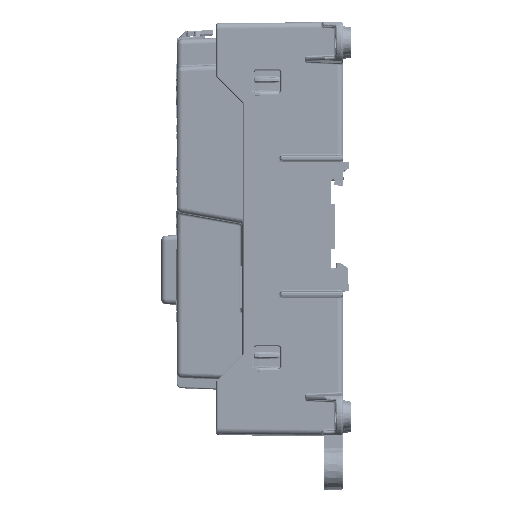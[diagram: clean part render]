
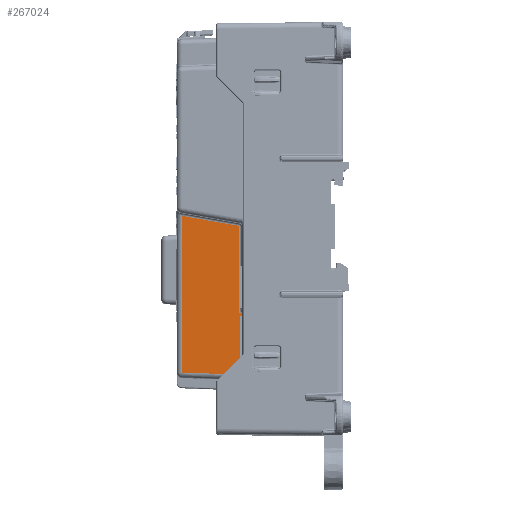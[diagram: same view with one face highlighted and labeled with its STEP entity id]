
A CAD part, top view. The second image highlights one B-rep face of the part: STEP entity #267024.
In plain terms, the highlighted planar face has unit normal (-0.035, 0, 0.999).
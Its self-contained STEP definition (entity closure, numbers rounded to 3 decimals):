
#21555=FACE_OUTER_BOUND('',#37088,.T.);
#37088=EDGE_LOOP('',(#200629,#200630,#200631,#200632,#200633,#200634,#200635,
#200636));
#54671=LINE('',#452874,#80027);
#54680=LINE('',#452913,#80036);
#54683=LINE('',#452948,#80039);
#54686=LINE('',#452984,#80042);
#55919=LINE('',#461238,#81275);
#56609=LINE('',#469348,#81965);
#56619=LINE('',#469616,#81975);
#56620=LINE('',#469617,#81976);
#80027=VECTOR('',#319770,1000.);
#80036=VECTOR('',#319785,1000.);
#80039=VECTOR('',#319790,1000.);
#80042=VECTOR('',#319793,1000.);
#81275=VECTOR('',#322510,1000.);
#81965=VECTOR('',#324364,1000.);
#81975=VECTOR('',#324396,1000.);
#81976=VECTOR('',#324397,1000.);
#115072=VERTEX_POINT('',#450029);
#115329=VERTEX_POINT('',#452859);
#115337=VERTEX_POINT('',#452911);
#115338=VERTEX_POINT('',#452912);
#115341=VERTEX_POINT('',#452947);
#116920=VERTEX_POINT('',#461237);
#117679=VERTEX_POINT('',#469347);
#117692=VERTEX_POINT('',#469615);
#144897=EDGE_CURVE('',#115072,#115329,#54671,.T.);
#144907=EDGE_CURVE('',#115337,#115338,#54680,.T.);
#144912=EDGE_CURVE('',#115337,#115341,#54683,.T.);
#144916=EDGE_CURVE('',#115329,#115341,#54686,.T.);
#146909=EDGE_CURVE('',#115072,#116920,#55919,.T.);
#148152=EDGE_CURVE('',#115338,#117679,#56609,.T.);
#148174=EDGE_CURVE('',#117692,#117679,#56619,.T.);
#148175=EDGE_CURVE('',#116920,#117692,#56620,.T.);
#200629=ORIENTED_EDGE('',*,*,#148174,.F.);
#200630=ORIENTED_EDGE('',*,*,#148175,.F.);
#200631=ORIENTED_EDGE('',*,*,#146909,.F.);
#200632=ORIENTED_EDGE('',*,*,#144897,.T.);
#200633=ORIENTED_EDGE('',*,*,#144916,.T.);
#200634=ORIENTED_EDGE('',*,*,#144912,.F.);
#200635=ORIENTED_EDGE('',*,*,#144907,.T.);
#200636=ORIENTED_EDGE('',*,*,#148152,.T.);
#256451=PLANE('',#285738);
#267024=ADVANCED_FACE('',(#21555),#256451,.T.);
#285738=AXIS2_PLACEMENT_3D('',#469614,#324394,#324395);
#319770=DIRECTION('',(0.,1.,0.));
#319785=DIRECTION('',(-0.999,0.,-0.035));
#319790=DIRECTION('',(0.,-1.,0.));
#319793=DIRECTION('',(0.999,0.,0.035));
#322510=DIRECTION('',(-0.999,0.035,-0.035));
#324364=DIRECTION('',(0.,1.,0.));
#324394=DIRECTION('center_axis',(-0.035,0.,
0.999));
#324395=DIRECTION('ref_axis',(0.,-1.,0.));
#324396=DIRECTION('',(0.984,-0.174,0.034));
#324397=DIRECTION('',(0.,1.,0.));
#450029=CARTESIAN_POINT('',(-42.665,-56.717,214.143));
#452859=CARTESIAN_POINT('',(-42.665,-51.267,214.145));
#452874=CARTESIAN_POINT('',(-42.665,-31.568,214.145));
#452911=CARTESIAN_POINT('',(-41.7,-33.047,214.178));
#452912=CARTESIAN_POINT('',(-42.665,-33.047,214.145));
#452913=CARTESIAN_POINT('',(-41.7,-33.047,214.178));
#452947=CARTESIAN_POINT('',(-41.7,-51.267,214.178));
#452948=CARTESIAN_POINT('',(-41.7,0.749,214.178));
#452984=CARTESIAN_POINT('',(-41.7,-51.267,214.178));
#461237=CARTESIAN_POINT('',(-64.77,-55.946,213.373));
#461238=CARTESIAN_POINT('',(-53.607,-56.335,213.762));
#469347=CARTESIAN_POINT('',(-42.665,0.099,214.145));
#469348=CARTESIAN_POINT('',(-42.665,-31.568,214.145));
#469614=CARTESIAN_POINT('Origin',(-28.183,0.749,214.65));
#469615=CARTESIAN_POINT('',(-64.77,3.997,213.373));
#469616=CARTESIAN_POINT('',(-53.717,2.048,213.759));
#469617=CARTESIAN_POINT('',(-64.77,-25.975,213.373));
